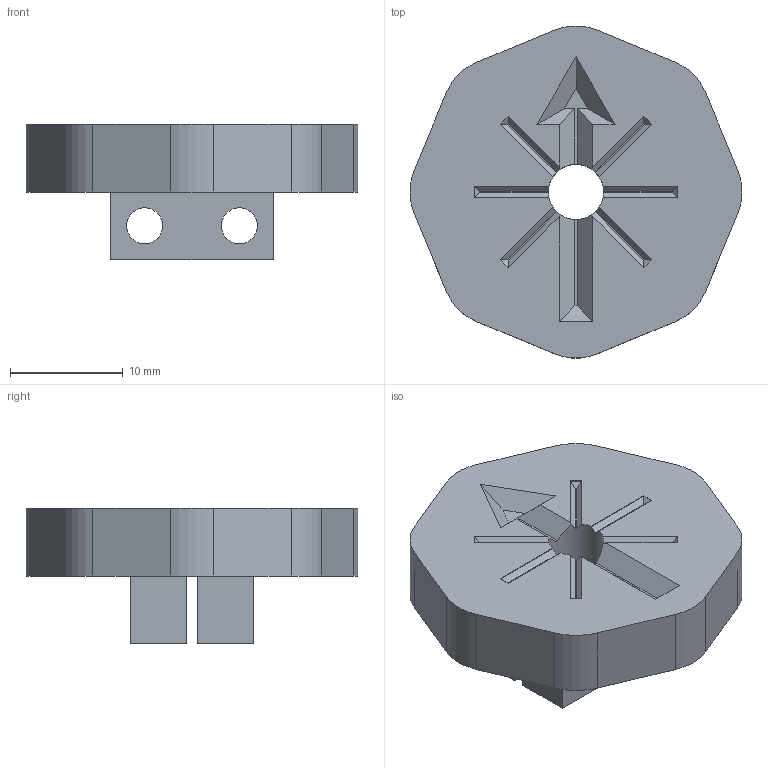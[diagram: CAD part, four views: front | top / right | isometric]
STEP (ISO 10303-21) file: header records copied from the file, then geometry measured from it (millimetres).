
FILE_DESCRIPTION(/* description */ (''),/* implementation_level */ '2;1');
FILE_NAME(/* name */ '\\192.168.3.8\kumagai\Develop\CAD\NakataOmni\DriveUnitR3\MotorKnob.stp',/* time_stamp */ '2024-05-23T11:52:37+09:00',/* author */ ('kumagai'),/* organization */ (''),/* preprocessor_version */ 'ST-DEVELOPER v19',/* originating_system */ 'Autodesk Inventor 2023',/* authorisation */ '');
FILE_SCHEMA (('AUTOMOTIVE_DESIGN { 1 0 10303 214 3 1 1 }'));
Length unit declared in the file: millimetre
Products named in the file (1): 平歯車1
Bounding box: 29.45 x 29.45 x 12 mm (x, y, z)
Volume: 4323.6 mm3; surface area: 2551.9 mm2
Topology: 1 solids, 1 shells, 88 faces, 246 edges, 160 vertices
Faces by surface type: plane 75, cylinder 13
Full cylindrical faces by diameter (mm): 3.2 x4, 4.9 x1
Entity records: 2875 total; most frequent: CARTESIAN_POINT 495, ORIENTED_EDGE 492, DIRECTION 482, EDGE_CURVE 246, LINE 188, VECTOR 188, VERTEX_POINT 160, AXIS2_PLACEMENT_3D 147
